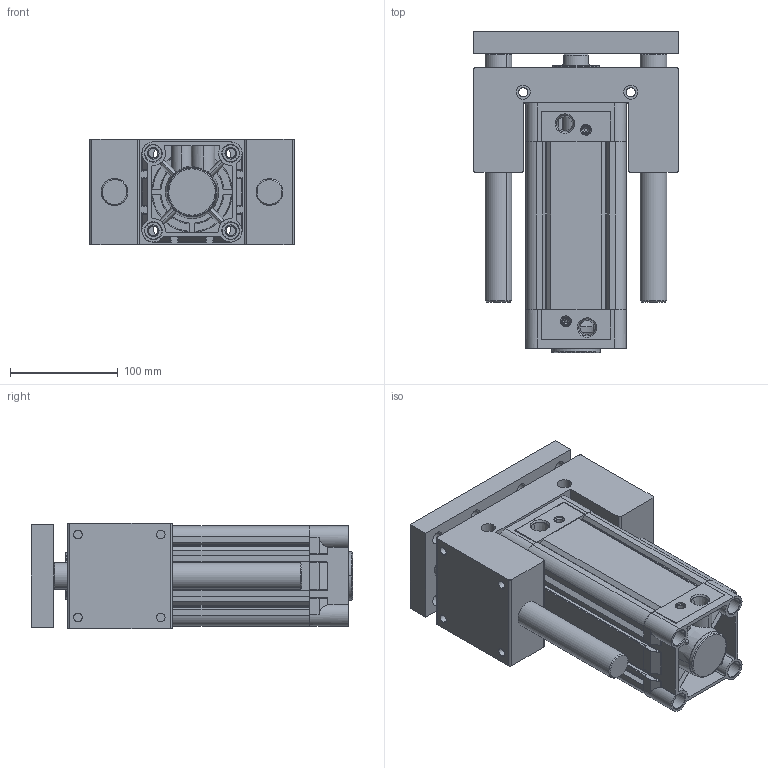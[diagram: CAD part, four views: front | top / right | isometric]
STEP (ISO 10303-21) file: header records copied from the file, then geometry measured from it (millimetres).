
FILE_DESCRIPTION (( 'STEP AP203' ), '1' );
FILE_NAME ('KDNC80X100-U-YATAK.STEP', '2016-09-08T06:52:30', ( 'user' ), ( '' ), 'SwSTEP 2.0', 'SolidWorks 2013', '' );
FILE_SCHEMA (( 'CONFIG_CONTROL_DESIGN' ));
Length unit declared in the file: millimetre
Products named in the file (9): ARKA KAPAK  80; KDNC 80x100 BORU; ORTA PÝSTON 80; 烰 KAPAK  80; Piston Mili U YATAKLAMA 80x100; KDNC80X100-U-YATAK; DNC-U-YATAK 80; DNC-U-YATAK M尳 80X100; DNC-U-YATAK TABLA 80
Assembly tree (9 placements, depth 2):
  KDNC80X100-U-YATAK
    DNC-U-YATAK 80
    DNC-U-YATAK M尳 80X100  x2
    DNC-U-YATAK TABLA 80
    ARKA KAPAK  80
    KDNC 80x100 BORU
    ORTA PÝSTON 80
    烰 KAPAK  80
    Piston Mili U YATAKLAMA 80x100
Bounding box: 191 x 298.5 x 98 mm (x, y, z)
Volume: 2580352 mm3; surface area: 557031 mm2
Topology: 9 solids, 9 shells, 1180 faces, 3124 edges, 2013 vertices
Faces by surface type: cylinder 491, plane 395, cone 200, bspline 92, torus 2
Entity records: 49649 total; most frequent: CARTESIAN_POINT 21377, ORIENTED_EDGE 6200, DIRECTION 4888, EDGE_CURVE 3100, VERTEX_POINT 2005, AXIS2_PLACEMENT_3D 1780, EDGE_LOOP 1329, LINE 1328
